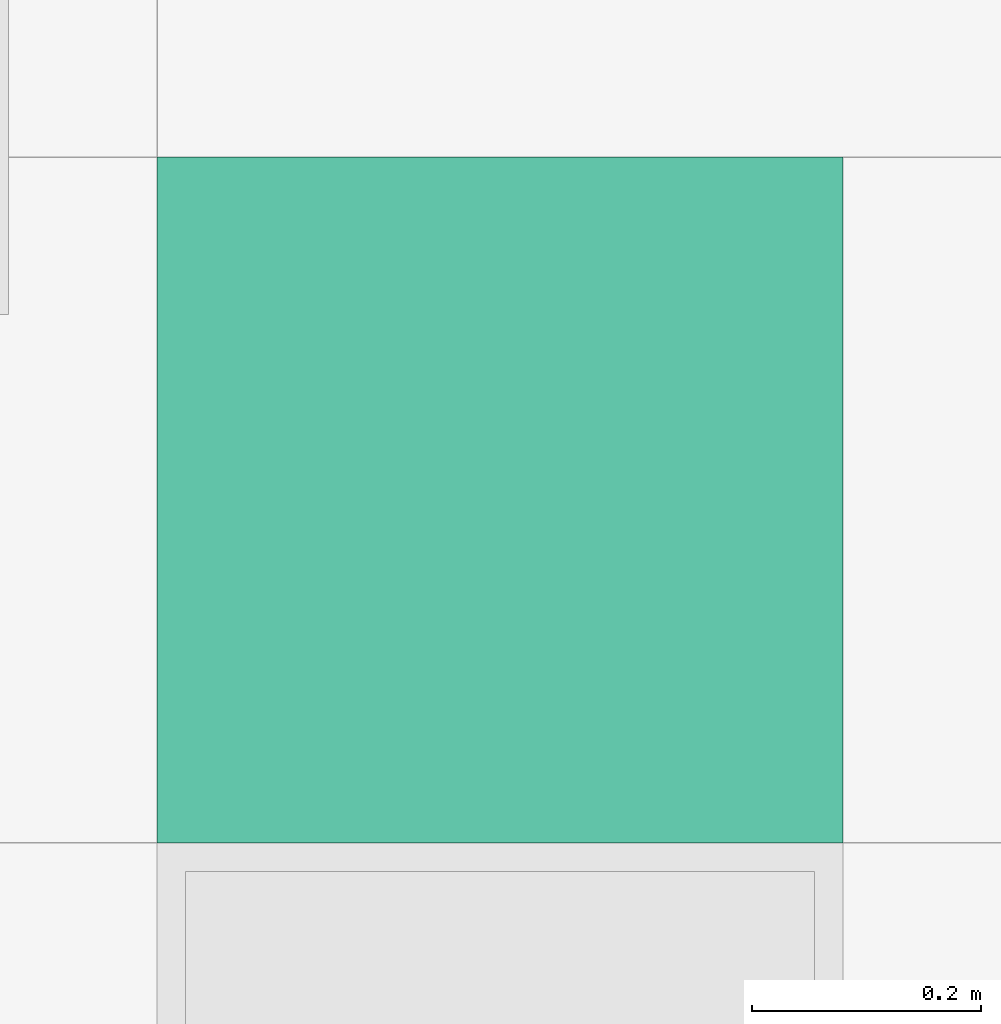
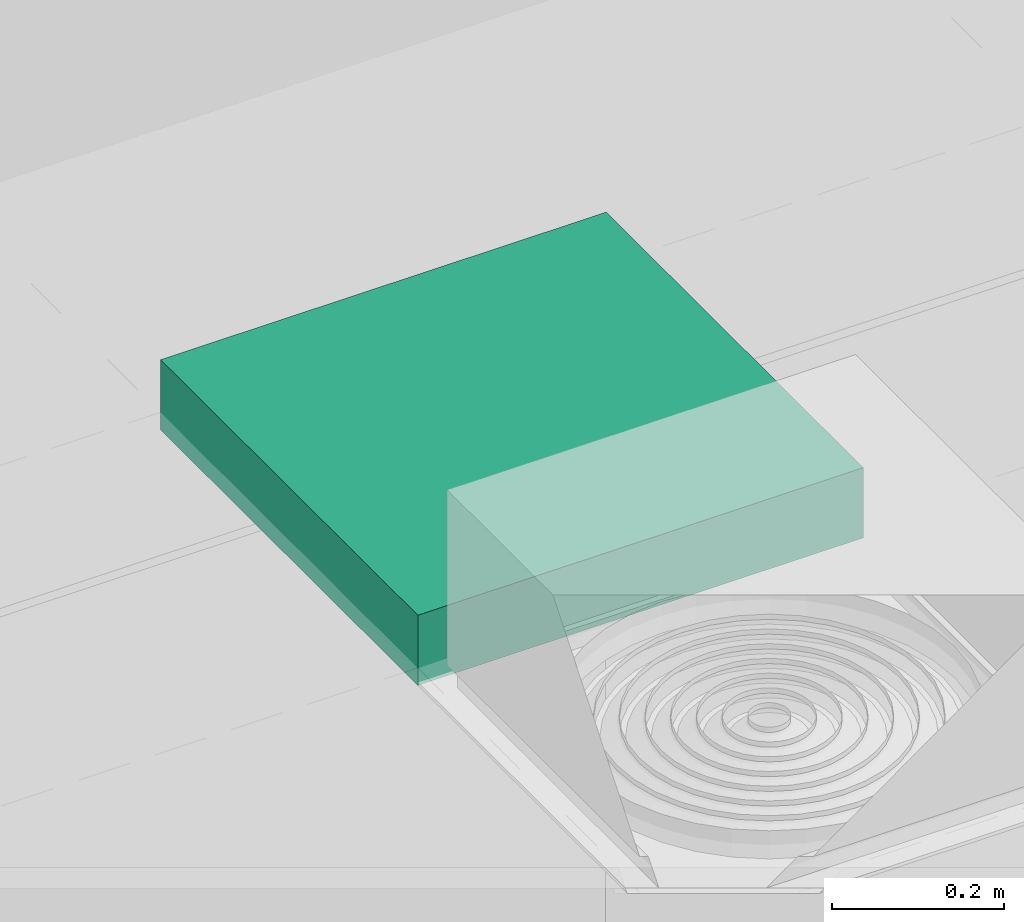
# One storey, part 193 of 347: 1 flow terminal.
"""IFC2X3 building model written with IfcOpenShell, lengths in millimetres."""

from ifc_helpers import new_model, entity, si_unit, converted_unit, derived_unit, money_unit, direction, frame, origin_with_axes, place, context, subcontext, project, spatial, open_shell, faceted_brep, surface_model, source, transform, mapped, type_object, type_shapes, element, save


model = new_model("IFC2X3")

# Units and contexts
model_context = context("Model", 3, precision=0.01, world=origin_with_axes(), true_north=direction((0.0, 1.0)))
plan_context = context("Plan", 3, precision=0.01, world=origin_with_axes(), true_north=direction((0.0, 1.0)))
body_context = subcontext(model_context, "Body", "Model", "MODEL_VIEW")
ifc_project = project(units=[si_unit("LENGTHUNIT", "METRE", prefix="MILLI"), si_unit("AREAUNIT", "SQUARE_METRE"), si_unit("VOLUMEUNIT", "CUBIC_METRE"), converted_unit("PLANEANGLEUNIT", "DEGREE", entity("IfcPlaneAngleMeasure", 0.0174532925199), si_unit("PLANEANGLEUNIT", "RADIAN"), dimensions=[0, 0, 0, 0, 0, 0, 0]), money_unit("EUR"), converted_unit("TIMEUNIT", "Year", entity("IfcTimeMeasure", 31556926.0), si_unit("TIMEUNIT", "SECOND"), dimensions=[0, 0, 1, 0, 0, 0, 0]), si_unit("MASSUNIT", "GRAM", prefix="KILO"), si_unit("THERMODYNAMICTEMPERATUREUNIT", "DEGREE_CELSIUS"), si_unit("LUMINOUSINTENSITYUNIT", "LUMEN"), si_unit("ENERGYUNIT", "JOULE", prefix="MEGA"), derived_unit("THERMALCONDUCTANCEUNIT", [(si_unit("POWERUNIT", "WATT"), 1), (si_unit("LENGTHUNIT", "METRE"), -1), (si_unit("THERMODYNAMICTEMPERATUREUNIT", "KELVIN"), -1)]), derived_unit("SPECIFICHEATCAPACITYUNIT", [(si_unit("ENERGYUNIT", "JOULE"), 1), (si_unit("MASSUNIT", "GRAM", prefix="KILO"), -1), (si_unit("THERMODYNAMICTEMPERATUREUNIT", "KELVIN"), -1)]), derived_unit("MASSDENSITYUNIT", [(si_unit("MASSUNIT", "GRAM", prefix="KILO"), 1), (si_unit("VOLUMEUNIT", "CUBIC_METRE"), -1)])], contexts=[model_context, plan_context])

# Site, building, storey
site_placement = place(None, origin_with_axes())
site = spatial("IfcSite", under=ifc_project, at=site_placement, Name="Site", CompositionType="ELEMENT")
building_placement = place(site_placement, origin_with_axes())
building = spatial("IfcBuilding", under=site, at=building_placement, Name="Naam gebouw", CompositionType="ELEMENT")
storey_placement = place(building_placement, origin_with_axes())
storey = spatial("IfcBuildingStorey", under=building, at=storey_placement, Name="begane grond", CompositionType="ELEMENT", Elevation=0.0)

# Flow terminal
lamp_type = type_object("IfcLampType", Name="TL plafond 25", PredefinedType="NOTDEFINED")
shared_shape = source(origin_with_axes(), body_context, "Body", "SurfaceModel", [
    faceted_brep([(0.0, 0.0, -100.0), (600.0, 0.0, -100.0), (600.0, 0.0, 0.0), (0.0, 0.0, 0.0), (0.0, 600.0, -100.0), (600.0, 600.0, -100.0), (40.0, 40.0, -100.0), (560.0, 40.0, -100.0), (560.0, 560.0, -100.0), (40.0, 560.0, -100.0), (600.0, 600.0, 0.0), (0.0, 600.0, 0.0), (40.0, 40.0, 0.0), (40.0, 560.0, 0.0), (560.0, 560.0, 0.0), (560.0, 40.0, 0.0)], [[[0, 1, 2, 3]], [[0, 4, 5, 1], [6, 7, 8, 9]], [[1, 5, 10, 2]], [[3, 2, 10, 11], [12, 13, 14, 15]], [[4, 0, 3, 11]], [[5, 4, 11, 10]], [[7, 6, 12, 15]], [[8, 7, 15, 14]], [[9, 8, 14, 13]], [[6, 9, 13, 12]]]),
    faceted_brep([(40.0, 40.0, -16.3333333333), (560.0, 40.0, -16.3333333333), (560.0, 40.0, 0.0), (40.0, 40.0, 0.0), (40.0, 560.0, -16.3333333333), (560.0, 560.0, -16.3333333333), (560.0, 560.0, 0.0), (40.0, 560.0, 0.0)], [[[0, 1, 2, 3]], [[0, 4, 5, 1]], [[1, 5, 6, 2]], [[3, 2, 6, 7]], [[4, 0, 3, 7]], [[5, 4, 7, 6]]]),
    surface_model("IfcShellBasedSurfaceModel", [(559.0, 41.0, -100.0), (40.0, 41.0, -100.0), (40.0, 559.0, -100.0), (559.0, 559.0, -100.0)], [open_shell([[[0, 1, 2, 3]]])]),
    faceted_brep([(40.0, 40.0, -100.0), (560.0, 40.0, -100.0), (560.0, 40.0, -60.0), (40.0, 40.0, -60.0), (40.0, 560.0, -100.0), (560.0, 560.0, -100.0), (41.0, 41.0, -100.0), (559.0, 41.0, -100.0), (559.0, 559.0, -100.0), (41.0, 559.0, -100.0), (560.0, 560.0, -60.0), (40.0, 560.0, -60.0), (41.0, 41.0, -60.0), (41.0, 559.0, -60.0), (559.0, 559.0, -60.0), (559.0, 41.0, -60.0)], [[[0, 1, 2, 3]], [[0, 4, 5, 1], [6, 7, 8, 9]], [[1, 5, 10, 2]], [[3, 2, 10, 11], [12, 13, 14, 15]], [[4, 0, 3, 11]], [[5, 4, 11, 10]], [[7, 6, 12, 15]], [[8, 7, 15, 14]], [[9, 8, 14, 13]], [[6, 9, 13, 12]]]),
    faceted_brep([(40.0, 144.0, -48.3333333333), (40.0, 149.740251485, -47.191526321), (560.0, 149.740251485, -47.191526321), (560.0, 144.0, -48.3333333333), (40.0, 138.259748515, -47.191526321), (40.0, 133.393398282, -43.9399350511), (40.0, 130.141807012, -39.0735848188), (40.0, 129.0, -33.3333333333), (40.0, 130.141807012, -27.5930818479), (40.0, 133.393398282, -22.7267316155), (40.0, 138.259748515, -19.4751403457), (40.0, 144.0, -18.3333333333), (40.0, 149.740251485, -19.4751403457), (40.0, 154.606601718, -22.7267316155), (40.0, 157.858192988, -27.5930818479), (40.0, 159.0, -33.3333333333), (40.0, 157.858192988, -39.0735848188), (40.0, 154.606601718, -43.9399350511), (40.0, 144.0, -46.3333333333), (40.0, 148.974884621, -45.343767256), (40.0, 153.192388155, -42.5257214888), (40.0, 156.010433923, -38.3082179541), (40.0, 157.0, -33.3333333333), (40.0, 156.010433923, -28.3584487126), (40.0, 153.192388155, -24.1409451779), (40.0, 148.974884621, -21.3228994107), (40.0, 144.0, -20.3333333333), (40.0, 139.025115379, -21.3228994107), (40.0, 134.807611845, -24.1409451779), (40.0, 131.989566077, -28.3584487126), (40.0, 131.0, -33.3333333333), (40.0, 131.989566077, -38.3082179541), (40.0, 134.807611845, -42.5257214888), (40.0, 139.025115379, -45.343767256), (560.0, 154.606601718, -43.9399350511), (560.0, 157.858192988, -39.0735848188), (560.0, 159.0, -33.3333333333), (560.0, 157.858192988, -27.5930818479), (560.0, 154.606601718, -22.7267316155), (560.0, 149.740251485, -19.4751403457), (560.0, 144.0, -18.3333333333), (560.0, 138.259748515, -19.4751403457), (560.0, 133.393398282, -22.7267316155), (560.0, 130.141807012, -27.5930818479), (560.0, 129.0, -33.3333333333), (560.0, 130.141807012, -39.0735848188), (560.0, 133.393398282, -43.9399350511), (560.0, 138.259748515, -47.191526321), (560.0, 144.0, -46.3333333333), (560.0, 139.025115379, -45.343767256), (560.0, 134.807611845, -42.5257214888), (560.0, 131.989566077, -38.3082179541), (560.0, 131.0, -33.3333333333), (560.0, 131.989566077, -28.3584487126), (560.0, 134.807611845, -24.1409451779), (560.0, 139.025115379, -21.3228994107), (560.0, 144.0, -20.3333333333), (560.0, 148.974884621, -21.3228994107), (560.0, 153.192388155, -24.1409451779), (560.0, 156.010433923, -28.3584487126), (560.0, 157.0, -33.3333333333), (560.0, 156.010433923, -38.3082179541), (560.0, 153.192388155, -42.5257214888), (560.0, 148.974884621, -45.343767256)], [[[0, 1, 2, 3]], [[0, 4, 5, 6, 7, 8, 9, 10, 11, 12, 13, 14, 15, 16, 17, 1], [18, 19, 20, 21, 22, 23, 24, 25, 26, 27, 28, 29, 30, 31, 32, 33]], [[1, 17, 34, 2]], [[3, 2, 34, 35, 36, 37, 38, 39, 40, 41, 42, 43, 44, 45, 46, 47], [48, 49, 50, 51, 52, 53, 54, 55, 56, 57, 58, 59, 60, 61, 62, 63]], [[4, 0, 3, 47]], [[5, 4, 47, 46]], [[6, 5, 46, 45]], [[7, 6, 45, 44]], [[8, 7, 44, 43]], [[9, 8, 43, 42]], [[10, 9, 42, 41]], [[11, 10, 41, 40]], [[12, 11, 40, 39]], [[13, 12, 39, 38]], [[14, 13, 38, 37]], [[15, 14, 37, 36]], [[16, 15, 36, 35]], [[17, 16, 35, 34]], [[19, 18, 48, 63]], [[20, 19, 63, 62]], [[21, 20, 62, 61]], [[22, 21, 61, 60]], [[23, 22, 60, 59]], [[24, 23, 59, 58]], [[25, 24, 58, 57]], [[26, 25, 57, 56]], [[27, 26, 56, 55]], [[28, 27, 55, 54]], [[29, 28, 54, 53]], [[30, 29, 53, 52]], [[31, 30, 52, 51]], [[32, 31, 51, 50]], [[33, 32, 50, 49]], [[18, 33, 49, 48]]]),
    faceted_brep([(40.0, 248.0, -48.3333333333), (40.0, 253.740251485, -47.191526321), (560.0, 253.740251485, -47.191526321), (560.0, 248.0, -48.3333333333), (40.0, 242.259748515, -47.191526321), (40.0, 237.393398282, -43.9399350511), (40.0, 234.141807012, -39.0735848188), (40.0, 233.0, -33.3333333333), (40.0, 234.141807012, -27.5930818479), (40.0, 237.393398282, -22.7267316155), (40.0, 242.259748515, -19.4751403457), (40.0, 248.0, -18.3333333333), (40.0, 253.740251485, -19.4751403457), (40.0, 258.606601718, -22.7267316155), (40.0, 261.858192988, -27.5930818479), (40.0, 263.0, -33.3333333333), (40.0, 261.858192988, -39.0735848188), (40.0, 258.606601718, -43.9399350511), (40.0, 248.0, -46.3333333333), (40.0, 252.974884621, -45.343767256), (40.0, 257.192388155, -42.5257214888), (40.0, 260.010433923, -38.3082179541), (40.0, 261.0, -33.3333333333), (40.0, 260.010433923, -28.3584487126), (40.0, 257.192388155, -24.1409451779), (40.0, 252.974884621, -21.3228994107), (40.0, 248.0, -20.3333333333), (40.0, 243.025115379, -21.3228994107), (40.0, 238.807611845, -24.1409451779), (40.0, 235.989566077, -28.3584487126), (40.0, 235.0, -33.3333333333), (40.0, 235.989566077, -38.3082179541), (40.0, 238.807611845, -42.5257214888), (40.0, 243.025115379, -45.343767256), (560.0, 258.606601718, -43.9399350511), (560.0, 261.858192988, -39.0735848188), (560.0, 263.0, -33.3333333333), (560.0, 261.858192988, -27.5930818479), (560.0, 258.606601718, -22.7267316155), (560.0, 253.740251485, -19.4751403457), (560.0, 248.0, -18.3333333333), (560.0, 242.259748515, -19.4751403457), (560.0, 237.393398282, -22.7267316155), (560.0, 234.141807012, -27.5930818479), (560.0, 233.0, -33.3333333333), (560.0, 234.141807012, -39.0735848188), (560.0, 237.393398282, -43.9399350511), (560.0, 242.259748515, -47.191526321), (560.0, 248.0, -46.3333333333), (560.0, 243.025115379, -45.343767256), (560.0, 238.807611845, -42.5257214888), (560.0, 235.989566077, -38.3082179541), (560.0, 235.0, -33.3333333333), (560.0, 235.989566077, -28.3584487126), (560.0, 238.807611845, -24.1409451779), (560.0, 243.025115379, -21.3228994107), (560.0, 248.0, -20.3333333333), (560.0, 252.974884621, -21.3228994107), (560.0, 257.192388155, -24.1409451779), (560.0, 260.010433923, -28.3584487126), (560.0, 261.0, -33.3333333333), (560.0, 260.010433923, -38.3082179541), (560.0, 257.192388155, -42.5257214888), (560.0, 252.974884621, -45.343767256)], [[[0, 1, 2, 3]], [[0, 4, 5, 6, 7, 8, 9, 10, 11, 12, 13, 14, 15, 16, 17, 1], [18, 19, 20, 21, 22, 23, 24, 25, 26, 27, 28, 29, 30, 31, 32, 33]], [[1, 17, 34, 2]], [[3, 2, 34, 35, 36, 37, 38, 39, 40, 41, 42, 43, 44, 45, 46, 47], [48, 49, 50, 51, 52, 53, 54, 55, 56, 57, 58, 59, 60, 61, 62, 63]], [[4, 0, 3, 47]], [[5, 4, 47, 46]], [[6, 5, 46, 45]], [[7, 6, 45, 44]], [[8, 7, 44, 43]], [[9, 8, 43, 42]], [[10, 9, 42, 41]], [[11, 10, 41, 40]], [[12, 11, 40, 39]], [[13, 12, 39, 38]], [[14, 13, 38, 37]], [[15, 14, 37, 36]], [[16, 15, 36, 35]], [[17, 16, 35, 34]], [[19, 18, 48, 63]], [[20, 19, 63, 62]], [[21, 20, 62, 61]], [[22, 21, 61, 60]], [[23, 22, 60, 59]], [[24, 23, 59, 58]], [[25, 24, 58, 57]], [[26, 25, 57, 56]], [[27, 26, 56, 55]], [[28, 27, 55, 54]], [[29, 28, 54, 53]], [[30, 29, 53, 52]], [[31, 30, 52, 51]], [[32, 31, 51, 50]], [[33, 32, 50, 49]], [[18, 33, 49, 48]]]),
    faceted_brep([(40.0, 352.0, -48.3333333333), (40.0, 357.740251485, -47.191526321), (560.0, 357.740251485, -47.191526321), (560.0, 352.0, -48.3333333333), (40.0, 346.259748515, -47.191526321), (40.0, 341.393398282, -43.9399350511), (40.0, 338.141807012, -39.0735848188), (40.0, 337.0, -33.3333333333), (40.0, 338.141807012, -27.5930818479), (40.0, 341.393398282, -22.7267316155), (40.0, 346.259748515, -19.4751403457), (40.0, 352.0, -18.3333333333), (40.0, 357.740251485, -19.4751403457), (40.0, 362.606601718, -22.7267316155), (40.0, 365.858192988, -27.5930818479), (40.0, 367.0, -33.3333333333), (40.0, 365.858192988, -39.0735848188), (40.0, 362.606601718, -43.9399350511), (40.0, 352.0, -46.3333333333), (40.0, 356.974884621, -45.343767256), (40.0, 361.192388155, -42.5257214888), (40.0, 364.010433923, -38.3082179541), (40.0, 365.0, -33.3333333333), (40.0, 364.010433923, -28.3584487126), (40.0, 361.192388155, -24.1409451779), (40.0, 356.974884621, -21.3228994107), (40.0, 352.0, -20.3333333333), (40.0, 347.025115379, -21.3228994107), (40.0, 342.807611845, -24.1409451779), (40.0, 339.989566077, -28.3584487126), (40.0, 339.0, -33.3333333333), (40.0, 339.989566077, -38.3082179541), (40.0, 342.807611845, -42.5257214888), (40.0, 347.025115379, -45.343767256), (560.0, 362.606601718, -43.9399350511), (560.0, 365.858192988, -39.0735848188), (560.0, 367.0, -33.3333333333), (560.0, 365.858192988, -27.5930818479), (560.0, 362.606601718, -22.7267316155), (560.0, 357.740251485, -19.4751403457), (560.0, 352.0, -18.3333333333), (560.0, 346.259748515, -19.4751403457), (560.0, 341.393398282, -22.7267316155), (560.0, 338.141807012, -27.5930818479), (560.0, 337.0, -33.3333333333), (560.0, 338.141807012, -39.0735848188), (560.0, 341.393398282, -43.9399350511), (560.0, 346.259748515, -47.191526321), (560.0, 352.0, -46.3333333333), (560.0, 347.025115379, -45.343767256), (560.0, 342.807611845, -42.5257214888), (560.0, 339.989566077, -38.3082179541), (560.0, 339.0, -33.3333333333), (560.0, 339.989566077, -28.3584487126), (560.0, 342.807611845, -24.1409451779), (560.0, 347.025115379, -21.3228994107), (560.0, 352.0, -20.3333333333), (560.0, 356.974884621, -21.3228994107), (560.0, 361.192388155, -24.1409451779), (560.0, 364.010433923, -28.3584487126), (560.0, 365.0, -33.3333333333), (560.0, 364.010433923, -38.3082179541), (560.0, 361.192388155, -42.5257214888), (560.0, 356.974884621, -45.343767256)], [[[0, 1, 2, 3]], [[0, 4, 5, 6, 7, 8, 9, 10, 11, 12, 13, 14, 15, 16, 17, 1], [18, 19, 20, 21, 22, 23, 24, 25, 26, 27, 28, 29, 30, 31, 32, 33]], [[1, 17, 34, 2]], [[3, 2, 34, 35, 36, 37, 38, 39, 40, 41, 42, 43, 44, 45, 46, 47], [48, 49, 50, 51, 52, 53, 54, 55, 56, 57, 58, 59, 60, 61, 62, 63]], [[4, 0, 3, 47]], [[5, 4, 47, 46]], [[6, 5, 46, 45]], [[7, 6, 45, 44]], [[8, 7, 44, 43]], [[9, 8, 43, 42]], [[10, 9, 42, 41]], [[11, 10, 41, 40]], [[12, 11, 40, 39]], [[13, 12, 39, 38]], [[14, 13, 38, 37]], [[15, 14, 37, 36]], [[16, 15, 36, 35]], [[17, 16, 35, 34]], [[19, 18, 48, 63]], [[20, 19, 63, 62]], [[21, 20, 62, 61]], [[22, 21, 61, 60]], [[23, 22, 60, 59]], [[24, 23, 59, 58]], [[25, 24, 58, 57]], [[26, 25, 57, 56]], [[27, 26, 56, 55]], [[28, 27, 55, 54]], [[29, 28, 54, 53]], [[30, 29, 53, 52]], [[31, 30, 52, 51]], [[32, 31, 51, 50]], [[33, 32, 50, 49]], [[18, 33, 49, 48]]]),
    faceted_brep([(40.0, 456.0, -48.3333333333), (40.0, 461.740251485, -47.191526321), (560.0, 461.740251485, -47.191526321), (560.0, 456.0, -48.3333333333), (40.0, 450.259748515, -47.191526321), (40.0, 445.393398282, -43.9399350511), (40.0, 442.141807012, -39.0735848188), (40.0, 441.0, -33.3333333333), (40.0, 442.141807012, -27.5930818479), (40.0, 445.393398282, -22.7267316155), (40.0, 450.259748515, -19.4751403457), (40.0, 456.0, -18.3333333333), (40.0, 461.740251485, -19.4751403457), (40.0, 466.606601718, -22.7267316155), (40.0, 469.858192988, -27.5930818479), (40.0, 471.0, -33.3333333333), (40.0, 469.858192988, -39.0735848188), (40.0, 466.606601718, -43.9399350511), (40.0, 456.0, -46.3333333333), (40.0, 460.974884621, -45.343767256), (40.0, 465.192388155, -42.5257214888), (40.0, 468.010433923, -38.3082179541), (40.0, 469.0, -33.3333333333), (40.0, 468.010433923, -28.3584487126), (40.0, 465.192388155, -24.1409451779), (40.0, 460.974884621, -21.3228994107), (40.0, 456.0, -20.3333333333), (40.0, 451.025115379, -21.3228994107), (40.0, 446.807611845, -24.1409451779), (40.0, 443.989566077, -28.3584487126), (40.0, 443.0, -33.3333333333), (40.0, 443.989566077, -38.3082179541), (40.0, 446.807611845, -42.5257214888), (40.0, 451.025115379, -45.343767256), (560.0, 466.606601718, -43.9399350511), (560.0, 469.858192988, -39.0735848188), (560.0, 471.0, -33.3333333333), (560.0, 469.858192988, -27.5930818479), (560.0, 466.606601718, -22.7267316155), (560.0, 461.740251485, -19.4751403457), (560.0, 456.0, -18.3333333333), (560.0, 450.259748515, -19.4751403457), (560.0, 445.393398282, -22.7267316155), (560.0, 442.141807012, -27.5930818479), (560.0, 441.0, -33.3333333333), (560.0, 442.141807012, -39.0735848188), (560.0, 445.393398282, -43.9399350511), (560.0, 450.259748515, -47.191526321), (560.0, 456.0, -46.3333333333), (560.0, 451.025115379, -45.343767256), (560.0, 446.807611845, -42.5257214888), (560.0, 443.989566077, -38.3082179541), (560.0, 443.0, -33.3333333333), (560.0, 443.989566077, -28.3584487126), (560.0, 446.807611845, -24.1409451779), (560.0, 451.025115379, -21.3228994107), (560.0, 456.0, -20.3333333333), (560.0, 460.974884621, -21.3228994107), (560.0, 465.192388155, -24.1409451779), (560.0, 468.010433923, -28.3584487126), (560.0, 469.0, -33.3333333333), (560.0, 468.010433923, -38.3082179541), (560.0, 465.192388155, -42.5257214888), (560.0, 460.974884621, -45.343767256)], [[[0, 1, 2, 3]], [[0, 4, 5, 6, 7, 8, 9, 10, 11, 12, 13, 14, 15, 16, 17, 1], [18, 19, 20, 21, 22, 23, 24, 25, 26, 27, 28, 29, 30, 31, 32, 33]], [[1, 17, 34, 2]], [[3, 2, 34, 35, 36, 37, 38, 39, 40, 41, 42, 43, 44, 45, 46, 47], [48, 49, 50, 51, 52, 53, 54, 55, 56, 57, 58, 59, 60, 61, 62, 63]], [[4, 0, 3, 47]], [[5, 4, 47, 46]], [[6, 5, 46, 45]], [[7, 6, 45, 44]], [[8, 7, 44, 43]], [[9, 8, 43, 42]], [[10, 9, 42, 41]], [[11, 10, 41, 40]], [[12, 11, 40, 39]], [[13, 12, 39, 38]], [[14, 13, 38, 37]], [[15, 14, 37, 36]], [[16, 15, 36, 35]], [[17, 16, 35, 34]], [[19, 18, 48, 63]], [[20, 19, 63, 62]], [[21, 20, 62, 61]], [[22, 21, 61, 60]], [[23, 22, 60, 59]], [[24, 23, 59, 58]], [[25, 24, 58, 57]], [[26, 25, 57, 56]], [[27, 26, 56, 55]], [[28, 27, 55, 54]], [[29, 28, 54, 53]], [[30, 29, 53, 52]], [[31, 30, 52, 51]], [[32, 31, 51, 50]], [[33, 32, 50, 49]], [[18, 33, 49, 48]]]),
])
type_shapes(lamp_type, [shared_shape])
flow_terminal_placement = place(storey_placement, frame((18505.0, 10399.999972, 3295.0), z_axis=(0.0, 0.0, 1.0), x_axis=(1.0, 0.0, 0.0)))
element("IfcFlowTerminal", 1, at=flow_terminal_placement, inside=storey, type_object=lamp_type, Name="63_Lamp-x", ObjectType="Lamp", context=body_context, shape_type="MappedRepresentation", body=[
    mapped(shared_shape, transform((0.0, 0.0, 0.0))),
])

save(model, "model.ifc")
